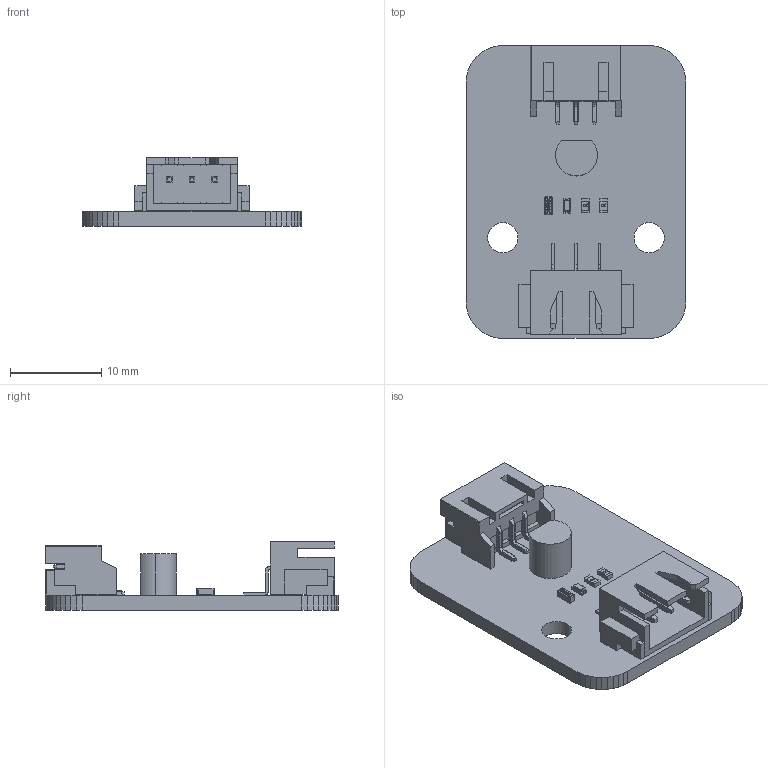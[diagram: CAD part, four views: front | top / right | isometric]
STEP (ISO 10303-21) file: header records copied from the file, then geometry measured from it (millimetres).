
FILE_DESCRIPTION(('Open CASCADE Model'),'2;1');
FILE_NAME('Open CASCADE Shape Model','2025-03-28T10:56:57',('Author'),( 'Open CASCADE'),'Open CASCADE STEP processor 6.5','Open CASCADE 6.5' ,'Unknown');
FILE_SCHEMA(('AUTOMOTIVE_DESIGN { 1 0 10303 214 1 1 1 1 }'));
Length unit declared in the file: millimetre
Products named in the file (23): PCB; Board; R2; 0603_R; R1; D1; LED0603(R); P1; 3pin-2.5; C1; User_Library-0603(1608M)_Cap; U1; LM35-TO-92; P2; User_Library-PH2_0-3PWB; Designator12; PH2.0_SMD-W-3P; PH2_0_SMD-W-3P-11406_AF0_ASM; PH2_0_SMD-W__100; PH2_0_SMD-W-3P-6842_AF0_ASM; 3_100; 2_100; 1_1_A
Assembly tree (25 placements, depth 8):
  PCB
    Board
    R2
      0603_R
    R1
      0603_R
    D1
      LED0603(R)
    P1
      3pin-2.5
    C1
      User_Library-0603(1608M)_Cap
    U1
      LM35-TO-92
    P2
      User_Library-PH2_0-3PWB
        Designator12
          PH2.0_SMD-W-3P
            PH2_0_SMD-W-3P-11406_AF0_ASM
              PH2_0_SMD-W__100  x3
              PH2_0_SMD-W-3P-6842_AF0_ASM
                3_100
                2_100
                1_1_A
Bounding box: 24.02 x 32.02 x 7.49 mm (x, y, z)
Volume: 1607.5 mm3; surface area: 2947.5 mm2
Topology: 15 solids, 15 shells, 1065 faces, 2842 edges, 1840 vertices
Faces by surface type: plane 738, cylinder 146, bspline 139, torus 24, extrusion 10, sphere 8
Full cylindrical faces by diameter (mm): 0.762 x3, 3.3 x2
Entity records: 78847 total; most frequent: CARTESIAN_POINT 25815, DIRECTION 7495, VECTOR 5537, LINE 5532, ORIENTED_EDGE 4936, PCURVE 4936, DEFINITIONAL_REPRESENTATION 4936, EDGE_CURVE 2468
